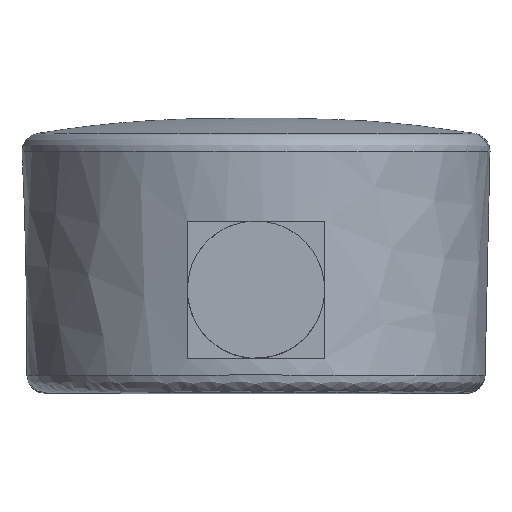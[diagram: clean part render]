
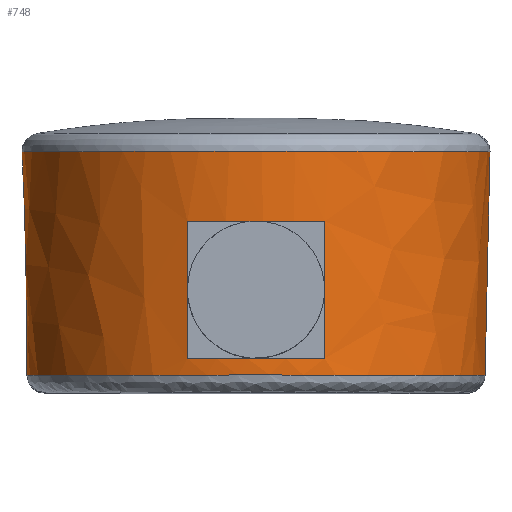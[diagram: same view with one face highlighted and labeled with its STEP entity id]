
A CAD part, top view. The second image highlights one B-rep face of the part: STEP entity #748.
In plain terms, the highlighted free-form (B-spline) face has degree [2, 1] with [7, 2] control points.
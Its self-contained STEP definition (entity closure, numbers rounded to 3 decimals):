
#375=CARTESIAN_POINT('V1',(-5.744,-32.477,
   19.428));
#376=VERTEX_POINT('V1',#375);
#377=CARTESIAN_POINT('V2',(6.256,-32.477,
   19.428));
#378=VERTEX_POINT('V2',#377);
#379=CARTESIAN_POINT('E1',(-5.744,-32.477,
   19.428));
#380=CARTESIAN_POINT('E1',(0.256,-32.477,
   21.281));
#381=CARTESIAN_POINT('E1',(6.256,-32.477,
   19.428));
#389=(BOUNDED_CURVE()B_SPLINE_CURVE(2,(#379,#380,#381),
   .CIRCULAR_ARC.,.F.,.U.)CURVE()GEOMETRIC_REPRESENTATION_ITEM()
   QUASI_UNIFORM_CURVE()RATIONAL_B_SPLINE_CURVE((0.893,
   0.787,0.759))REPRESENTATION_ITEM('E1'));
#390=EDGE_CURVE('E1',#376,#378,#389,.T.);
#419=CARTESIAN_POINT('V5',(-5.744,-44.477,
   19.149));
#420=VERTEX_POINT('V5',#419);
#421=CARTESIAN_POINT('E5',(-5.744,-44.477,
   19.149));
#422=CARTESIAN_POINT('E5',(-5.744,-38.521,
   19.287));
#423=CARTESIAN_POINT('E5',(-5.744,-32.477,
   19.428));
#424=QUASI_UNIFORM_CURVE('E5',2,(#421,#422,#423),.UNSPECIFIED.,.F.,
   .U.);
#425=EDGE_CURVE('E5',#420,#376,#424,.T.);
#448=CARTESIAN_POINT('V7',(6.256,-44.477,
   19.149));
#449=VERTEX_POINT('V7',#448);
#450=CARTESIAN_POINT('E8',(6.256,-44.477,
   19.149));
#451=CARTESIAN_POINT('E8',(0.256,-44.477,
   21.029));
#452=CARTESIAN_POINT('E8',(-5.744,-44.477,
   19.149));
#460=(BOUNDED_CURVE()B_SPLINE_CURVE(2,(#450,#451,#452),
   .CIRCULAR_ARC.,.F.,.U.)CURVE()GEOMETRIC_REPRESENTATION_ITEM()
   QUASI_UNIFORM_CURVE()RATIONAL_B_SPLINE_CURVE((0.759,
   0.786,0.895))REPRESENTATION_ITEM('E8'));
#461=EDGE_CURVE('E8',#449,#420,#460,.T.);
#535=CARTESIAN_POINT('V9',(20.291,-45.913,
   0.0));
#536=VERTEX_POINT('V9',#535);
#550=CARTESIAN_POINT('E15',(20.291,-45.913,
   0.0));
#551=CARTESIAN_POINT('E15',(20.291,-45.913,
   -34.701));
#552=CARTESIAN_POINT('E15',(-9.761,-45.913,
   -17.351));
#553=CARTESIAN_POINT('E15',(-39.813,-45.913,
   0.));
#554=CARTESIAN_POINT('E15',(-9.761,-45.913,
   17.351));
#555=CARTESIAN_POINT('E15',(20.291,-45.913,
   34.701));
#556=CARTESIAN_POINT('E15',(20.291,-45.913,
   0.0));
#564=(BOUNDED_CURVE()B_SPLINE_CURVE(2,(#550,#551,#552,#553,#554,
   #555,#556),.CIRCULAR_ARC.,.T.,.U.)B_SPLINE_CURVE_WITH_KNOTS((3,
   2,2,3),(0.0,21.643,43.287,
   64.93),.UNSPECIFIED.)CURVE()
   GEOMETRIC_REPRESENTATION_ITEM()RATIONAL_B_SPLINE_CURVE((1.0,
   0.5,1.0,0.5,1.0,0.5,1.0)
   )REPRESENTATION_ITEM('E15'));
#565=EDGE_CURVE('E15',#536,#536,#564,.T.);
#668=CARTESIAN_POINT('V10',(20.726,-26.358,
   0.0));
#669=VERTEX_POINT('V10',#668);
#685=CARTESIAN_POINT('E14',(20.726,-26.358,
   0.0));
#686=CARTESIAN_POINT('E14',(20.726,-26.358,
   35.454));
#687=CARTESIAN_POINT('E14',(-9.978,-26.358,
   17.727));
#688=CARTESIAN_POINT('E14',(-40.682,-26.358,
   0.));
#689=CARTESIAN_POINT('E14',(-9.978,-26.358,
   -17.727));
#690=CARTESIAN_POINT('E14',(20.726,-26.358,
   -35.454));
#691=CARTESIAN_POINT('E14',(20.726,-26.358,
   0.0));
#699=(BOUNDED_CURVE()B_SPLINE_CURVE(2,(#685,#686,#687,#688,#689,
   #690,#691),.CIRCULAR_ARC.,.T.,.U.)B_SPLINE_CURVE_WITH_KNOTS((3,
   2,2,3),(0.0,3.587,7.173,
   10.76),.UNSPECIFIED.)CURVE()
   GEOMETRIC_REPRESENTATION_ITEM()RATIONAL_B_SPLINE_CURVE((1.0,
   0.5,1.0,0.5,1.0,0.5,1.0)
   )REPRESENTATION_ITEM('E14'));
#700=EDGE_CURVE('E14',#669,#669,#699,.T.);
#705=CARTESIAN_POINT('F5',(20.726,-26.358,
   0.0));
#706=CARTESIAN_POINT('F5',(20.726,-26.358,
   35.454));
#707=CARTESIAN_POINT('F5',(-9.978,-26.358,
   17.727));
#708=CARTESIAN_POINT('F5',(-40.682,-26.358,
   0.));
#709=CARTESIAN_POINT('F5',(-9.978,-26.358,
   -17.727));
#710=CARTESIAN_POINT('F5',(20.726,-26.358,
   -35.454));
#711=CARTESIAN_POINT('F5',(20.726,-26.358,
   0.0));
#712=CARTESIAN_POINT('F5',(20.291,-45.913,
   0.0));
#713=CARTESIAN_POINT('F5',(20.291,-45.913,
   34.701));
#714=CARTESIAN_POINT('F5',(-9.761,-45.913,
   17.351));
#715=CARTESIAN_POINT('F5',(-39.813,-45.913,
   0.));
#716=CARTESIAN_POINT('F5',(-9.761,-45.913,
   -17.351));
#717=CARTESIAN_POINT('F5',(20.291,-45.913,
   -34.701));
#718=CARTESIAN_POINT('F5',(20.291,-45.913,
   0.0));
#726=(BOUNDED_SURFACE()B_SPLINE_SURFACE(2,1,((#705,#712),(#706,
   #713),(#707,#714),(#708,#715),(#709,#716),(#710,#717),(
   #711,#718)),.CONICAL_SURF.,.T.,.F.,.U.)
   B_SPLINE_SURFACE_WITH_KNOTS((3,2,2,3),(2,2),(0.0,
   3.587,7.173,10.76),(0.0,1.0),
   .UNSPECIFIED.)GEOMETRIC_REPRESENTATION_ITEM()
   RATIONAL_B_SPLINE_SURFACE(((1.0,1.0),(0.5,
   0.5),(1.0,1.0),(0.5,
   0.5),(1.0,1.0),(0.5,
   0.5),(1.0,1.0)))REPRESENTATION_ITEM('F5')SURFACE()
   );
#727=CARTESIAN_POINT('E13',(20.291,-45.913,
   0.0));
#728=CARTESIAN_POINT('E13',(20.726,-26.358,
   0.0));
#729=QUASI_UNIFORM_CURVE('E13',1,(#727,#728),.POLYLINE_FORM.,.F.,.U.
   );
#730=EDGE_CURVE('E13',#536,#669,#729,.T.);
#731=ORIENTED_EDGE('E13',*,*,#730,.T.);
#732=ORIENTED_EDGE('F9',*,*,#700,.T.);
#733=ORIENTED_EDGE('E13',*,*,#730,.F.);
#734=ORIENTED_EDGE('E15',*,*,#565,.T.);
#735=EDGE_LOOP('F5',(#731,#732,#733,#734));
#736=FACE_OUTER_BOUND('F5',#735,.T.);
#737=CARTESIAN_POINT('E11',(6.256,-32.477,
   19.428));
#738=CARTESIAN_POINT('E11',(6.256,-38.521,
   19.287));
#739=CARTESIAN_POINT('E11',(6.256,-44.477,
   19.149));
#740=QUASI_UNIFORM_CURVE('E11',2,(#737,#738,#739),.UNSPECIFIED.,.F.,
   .U.);
#741=EDGE_CURVE('E11',#378,#449,#740,.T.);
#742=ORIENTED_EDGE('E11',*,*,#741,.T.);
#743=ORIENTED_EDGE('E8',*,*,#461,.T.);
#744=ORIENTED_EDGE('E5',*,*,#425,.T.);
#745=ORIENTED_EDGE('E1',*,*,#390,.T.);
#746=EDGE_LOOP('F5',(#742,#743,#744,#745));
#747=FACE_BOUND('F5',#746,.T.);
#748=ADVANCED_FACE('F5',(#736,#747),#726,.T.);
